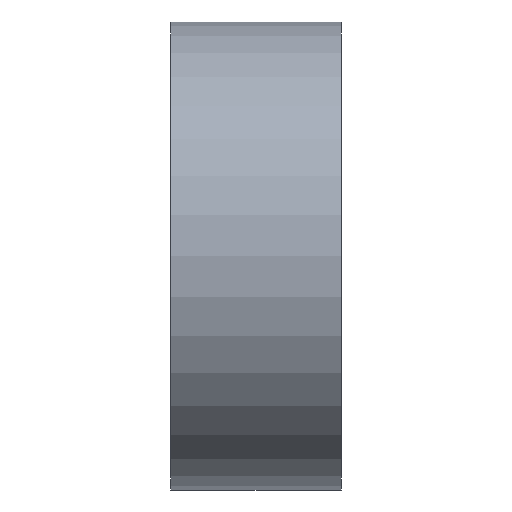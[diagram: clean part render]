
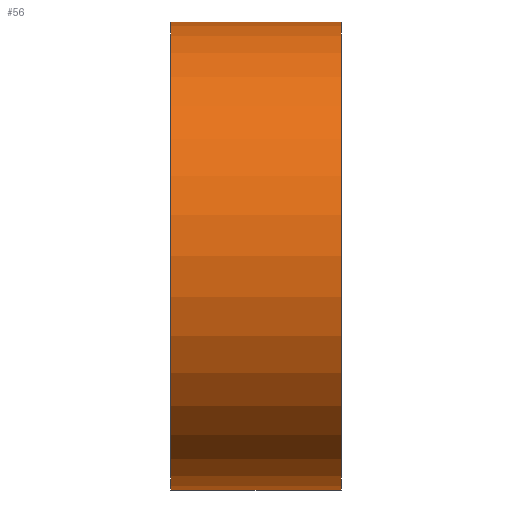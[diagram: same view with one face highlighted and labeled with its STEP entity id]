
A CAD part, front view. The second image highlights one B-rep face of the part: STEP entity #56.
In plain terms, the highlighted cylindrical face has radius 139.7 mm (diameter 279.4 mm), a full revolution.
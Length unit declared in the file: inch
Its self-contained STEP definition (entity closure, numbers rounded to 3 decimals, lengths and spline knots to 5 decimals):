
#24=CARTESIAN_POINT('',(117.41139,117.97152,0.));
#25=VERTEX_POINT('',#24);
#26=CARTESIAN_POINT('',(117.41139,112.47152,0.));
#27=DIRECTION('',(1.,0.,0.));
#28=DIRECTION('',(0.,1.,0.));
#29=AXIS2_PLACEMENT_3D('',#26,#27,#28);
#30=CIRCLE('',#29,5.5);
#31=EDGE_CURVE('',#25,#25,#30,.T.);
#32=ORIENTED_EDGE('',*,*,#31,.F.);
#33=CARTESIAN_POINT('',(113.41139,117.97152,0.));
#34=VERTEX_POINT('',#33);
#35=CARTESIAN_POINT('',(115.41139,117.97152,0.));
#36=DIRECTION('',(1.,0.,0.));
#37=VECTOR('',#36,5.5);
#38=LINE('',#35,#37);
#39=EDGE_CURVE('',#34,#25,#38,.T.);
#40=ORIENTED_EDGE('',*,*,#39,.F.);
#41=CARTESIAN_POINT('',(113.41139,112.47152,0.));
#42=DIRECTION('',(1.,0.,0.));
#43=DIRECTION('',(0.,1.,0.));
#44=AXIS2_PLACEMENT_3D('',#41,#42,#43);
#45=CIRCLE('',#44,5.5);
#46=EDGE_CURVE('',#34,#34,#45,.T.);
#47=ORIENTED_EDGE('',*,*,#46,.T.);
#48=ORIENTED_EDGE('',*,*,#39,.T.);
#49=EDGE_LOOP('',(#32,#40,#47,#48));
#50=FACE_OUTER_BOUND('',#49,.T.);
#51=CARTESIAN_POINT('',(115.41139,112.47152,0.));
#52=DIRECTION('',(1.,0.,0.));
#53=DIRECTION('',(0.,1.,0.));
#54=AXIS2_PLACEMENT_3D('',#51,#52,#53);
#55=CYLINDRICAL_SURFACE('',#54,5.5);
#56=ADVANCED_FACE('',(#50),#55,.T.);
